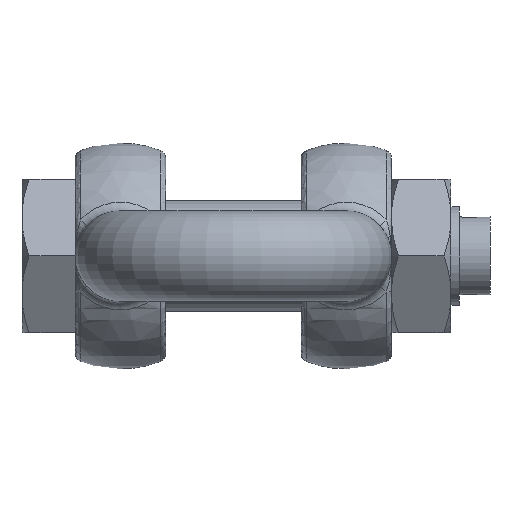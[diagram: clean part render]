
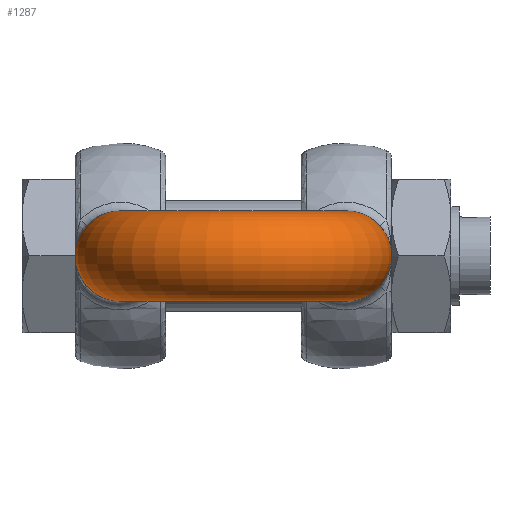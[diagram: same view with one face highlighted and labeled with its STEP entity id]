
A CAD part, front view. The second image highlights one B-rep face of the part: STEP entity #1287.
In plain terms, the highlighted toroidal (fillet/blend) face has major radius 55 mm and minor radius 22 mm.
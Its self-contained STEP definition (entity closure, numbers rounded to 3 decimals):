
#123=TOROIDAL_SURFACE('',#1460,55.,22.);
#234=FACE_OUTER_BOUND('',#323,.T.);
#323=EDGE_LOOP('',(#1029,#1030,#1031,#1032,#1033,#1034));
#486=CIRCLE('',#1458,22.);
#487=CIRCLE('',#1459,22.);
#488=CIRCLE('',#1461,33.);
#489=CIRCLE('',#1462,22.);
#490=CIRCLE('',#1463,22.);
#579=VERTEX_POINT('',#2928);
#580=VERTEX_POINT('',#2930);
#581=VERTEX_POINT('',#2934);
#582=VERTEX_POINT('',#2936);
#739=EDGE_CURVE('',#579,#580,#486,.T.);
#740=EDGE_CURVE('',#580,#579,#487,.T.);
#741=EDGE_CURVE('',#580,#581,#488,.T.);
#742=EDGE_CURVE('',#581,#582,#489,.T.);
#743=EDGE_CURVE('',#582,#581,#490,.T.);
#1029=ORIENTED_EDGE('',*,*,#740,.F.);
#1030=ORIENTED_EDGE('',*,*,#741,.T.);
#1031=ORIENTED_EDGE('',*,*,#742,.T.);
#1032=ORIENTED_EDGE('',*,*,#743,.T.);
#1033=ORIENTED_EDGE('',*,*,#741,.F.);
#1034=ORIENTED_EDGE('',*,*,#739,.F.);
#1287=ADVANCED_FACE('',(#234),#123,.T.);
#1458=AXIS2_PLACEMENT_3D('',#2931,#1691,#1692);
#1459=AXIS2_PLACEMENT_3D('',#2932,#1693,#1694);
#1460=AXIS2_PLACEMENT_3D('',#2933,#1695,#1696);
#1461=AXIS2_PLACEMENT_3D('',#2935,#1697,#1698);
#1462=AXIS2_PLACEMENT_3D('',#2937,#1699,#1700);
#1463=AXIS2_PLACEMENT_3D('',#2938,#1701,#1702);
#1691=DIRECTION('center_axis',(0.,1.,0.));
#1692=DIRECTION('ref_axis',(1.,0.,0.));
#1693=DIRECTION('center_axis',(0.,1.,0.));
#1694=DIRECTION('ref_axis',(1.,0.,0.));
#1695=DIRECTION('center_axis',(0.,0.,-1.));
#1696=DIRECTION('ref_axis',(-1.,0.,0.));
#1697=DIRECTION('center_axis',(0.,0.,1.));
#1698=DIRECTION('ref_axis',(-1.,0.,0.));
#1699=DIRECTION('center_axis',(0.,-1.,0.));
#1700=DIRECTION('ref_axis',(-1.,0.,0.));
#1701=DIRECTION('center_axis',(0.,-1.,0.));
#1702=DIRECTION('ref_axis',(-1.,0.,0.));
#2928=CARTESIAN_POINT('',(-77.,77.,0.));
#2930=CARTESIAN_POINT('',(-33.,77.,0.));
#2931=CARTESIAN_POINT('Origin',(-55.,77.,0.));
#2932=CARTESIAN_POINT('Origin',(-55.,77.,0.));
#2933=CARTESIAN_POINT('Origin',(0.,77.,0.));
#2934=CARTESIAN_POINT('',(33.,77.,0.));
#2935=CARTESIAN_POINT('Origin',(0.,77.,0.));
#2936=CARTESIAN_POINT('',(77.,77.,0.));
#2937=CARTESIAN_POINT('Origin',(55.,77.,0.));
#2938=CARTESIAN_POINT('Origin',(55.,77.,0.));
